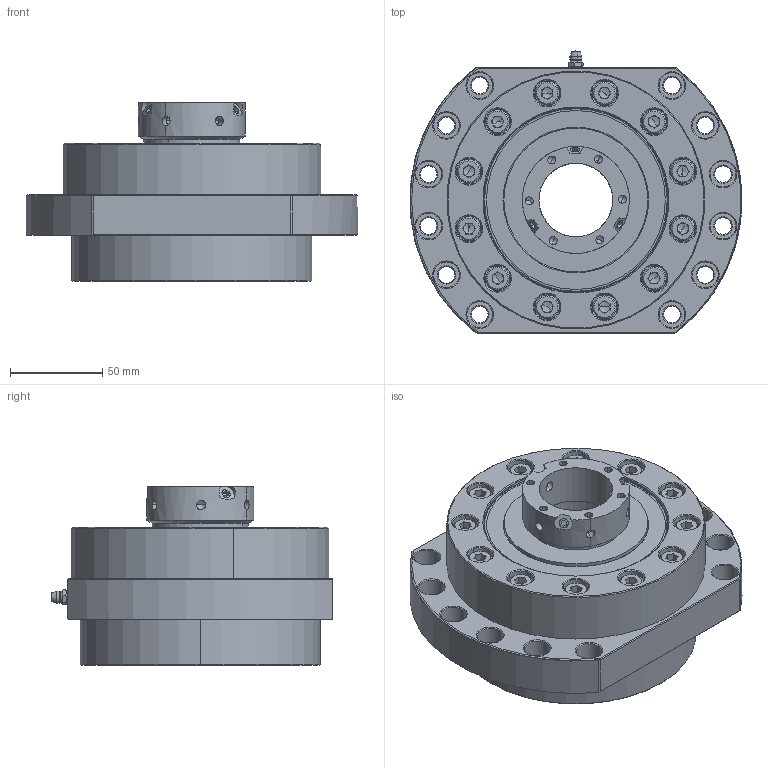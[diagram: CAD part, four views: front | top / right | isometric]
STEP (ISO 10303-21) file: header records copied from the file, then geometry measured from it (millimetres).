
FILE_DESCRIPTION (( 'STEP AP203' ), '1' );
FILE_NAME ('SRB4090.STEP', '2025-08-08T07:25:51', ( '' ), ( '' ), 'SwSTEP 2.0', 'SolidWorks 2025', '' );
FILE_SCHEMA (( 'CONFIG_CONTROL_DESIGN' ));
Length unit declared in the file: millimetre
Products named in the file (8): SRB4090_BODY; SRB4090; SRB4090_COVER; SRB4090_BEARING; M8-25(렌치볼트); HLRN40; 니플; SRB4090_OILSEAL
Assembly tree (19 placements, depth 2):
  SRB4090
    SRB4090_BODY
    SRB4090_COVER
    SRB4090_BEARING
    HLRN40
    니플
    SRB4090_OILSEAL  x2
    M8-25(렌치볼트)  x12
Bounding box: 179.85 x 152.83 x 97 mm (x, y, z)
Volume: 1135722.9 mm3; surface area: 226211.2 mm2
Topology: 19 solids, 19 shells, 885 faces, 2029 edges, 1190 vertices
Faces by surface type: cone 334, plane 270, cylinder 260, torus 16, bspline 5
Entity records: 19309 total; most frequent: CARTESIAN_POINT 4250, DIRECTION 3190, ORIENTED_EDGE 2686, EDGE_CURVE 1343, AXIS2_PLACEMENT_3D 1305, VERTEX_POINT 829, EDGE_LOOP 718, CIRCLE 695
